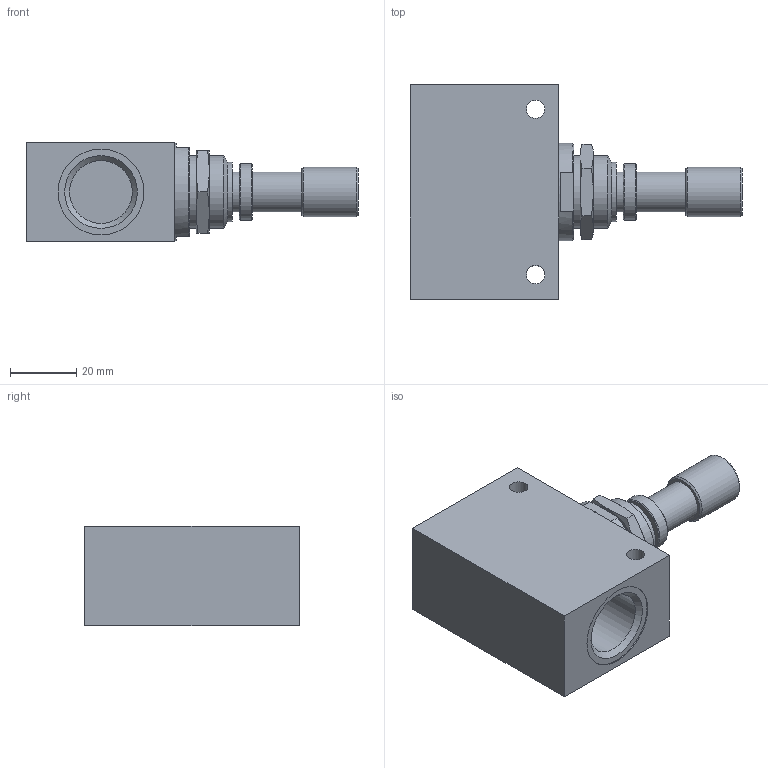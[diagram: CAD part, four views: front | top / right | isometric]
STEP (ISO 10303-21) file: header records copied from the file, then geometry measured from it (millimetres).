
FILE_DESCRIPTION(/* description */ (''),/* implementation_level */ '2;1');
FILE_NAME(/* name */ 'I:\Area Tecnica\Disegni\VARIE-3D\Componenti\600\6_01_12-1N.stp',/* time_stamp */ '2017-01-04T08:26:52+01:00',/* author */ ('maniean1'),/* organization */ (''),/* preprocessor_version */ 'ST-DEVELOPER v15.2',/* originating_system */ 'Autodesk Inventor 2014',/* authorisation */ '');
FILE_SCHEMA (('AUTOMOTIVE_DESIGN { 1 0 10303 214 3 1 1 }'));
Length unit declared in the file: millimetre
Products named in the file (3): 6_01_12N(A); 6_01_12N(B); 6_01_12-1N
Bounding box: 100.5 x 65 x 30 mm (x, y, z)
Volume: 91174.2 mm3; surface area: 19312.8 mm2
Topology: 2 solids, 2 shells, 55 faces, 112 edges, 71 vertices
Faces by surface type: plane 28, cylinder 14, cone 13
Full cylindrical faces by diameter (mm): 5.5 x2, 12 x2, 15 x1, 17 x1, 18 x1, 19 x2, 21 x1, 22 x1, 26 x2, 29.5 x1
Entity records: 1404 total; most frequent: CARTESIAN_POINT 246, DIRECTION 232, ORIENTED_EDGE 170, AXIS2_PLACEMENT_3D 103, EDGE_LOOP 96, EDGE_CURVE 85, VERTEX_POINT 69, ADVANCED_FACE 55
